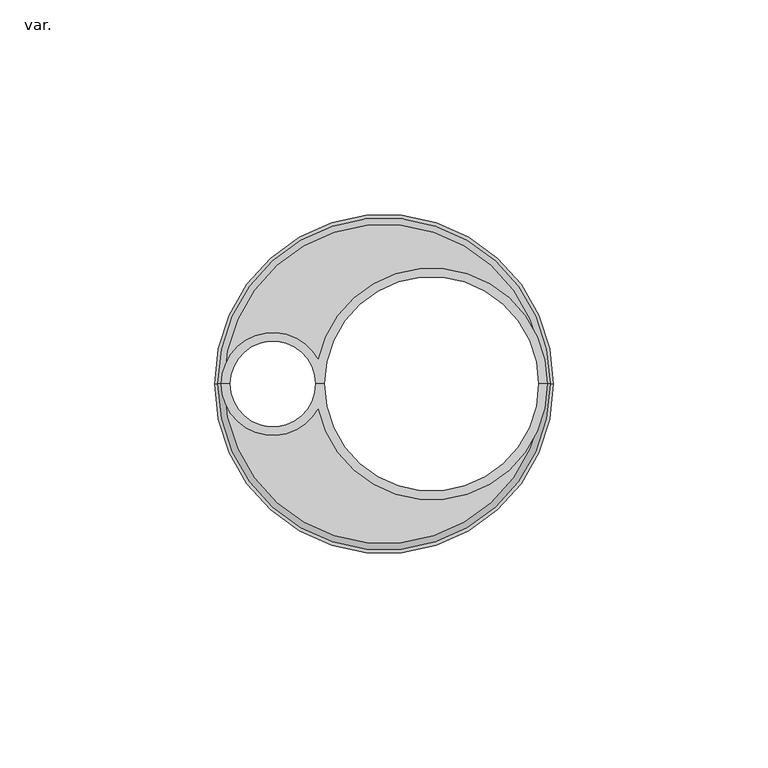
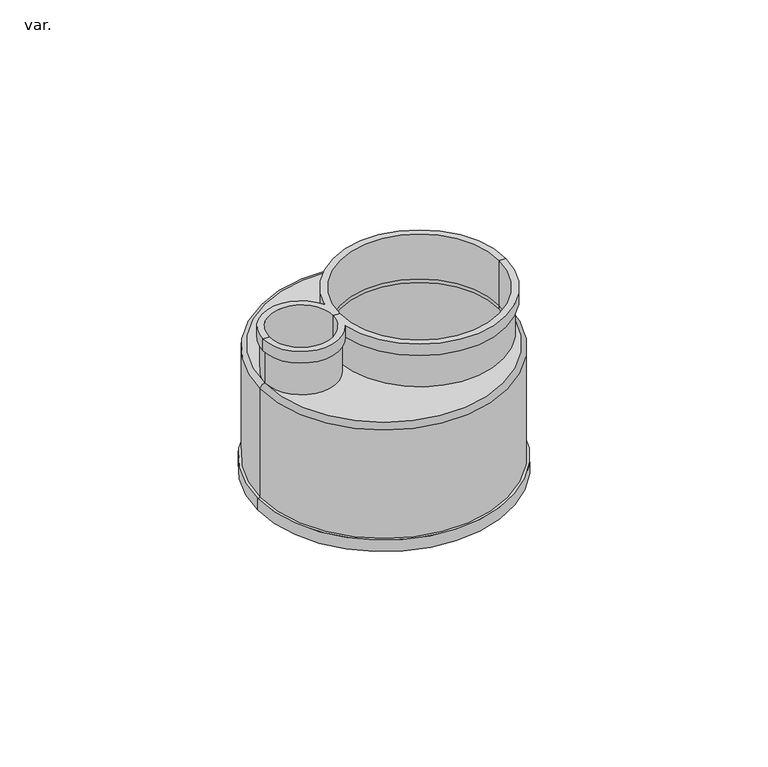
"""IFC4 building model written with IfcOpenShell, lengths in millimetres: pipe fitting geometry, AmancoWavin_ConexõesdeTubos_PEXCoifaDupla : var.."""

from ifc_helpers import new_model, si_unit, point, frame, origin, place, context, project, spatial, polyline, circle_curve, ellipse_curve, trimmed, source, transform, mapped, element, save
from ifc_brep_helpers import plane_surface, cylinder_surface, revolved_surface, advanced_brep


def var_be21ab8c(model_context):
    return source(origin(), model_context, "Body", "AdvancedBrep", [
        advanced_brep(
        [(-84.5559639, 0.0, 1.2), (-104.5559639, 0.0, 1.2), (-104.5559639, 0.0, 16.0), (-84.5559639, 0.0, 16.0), (-84.5559639, 0.0, 12.2), (-83.4959639, -1.7653328, 12.2), (-105.7559639, 0.0, 12.2), (-105.7559639, 0.0, 1.2), (-83.4959639, -1.7653328, 1.2), (-83.4959639, 1.7653328, 12.2), (-83.4959639, 1.7653328, 1.2), (-106.5559639, 0.0, 12.2), (-31.5559639, 0.0, 12.2), (-30.5559639, 0.0, 12.2), (-83.9613693, -5.6351189, 12.2), (-83.9613693, 5.6351189, 12.2), (-106.5559639, 0.0, 16.0), (-83.9613693, -5.6351189, 16.0), (-83.9613693, 5.6351189, 16.0), (-30.5559639, 0.0, 16.0), (-32.5559639, 0.0, 16.0), (-82.5559639, 0.0, 16.0), (-32.5559639, 0.0, 1.2), (-82.5559639, 0.0, 1.2), (-82.5559639, 0.0, 12.2), (-31.5559639, 0.0, 1.2), (-83.5559639, 0.0, 1.2), (-83.3559639, 0.0, 1.2)],
        [
            (0, 1, circle_curve(frame((-94.5559639, 0.0, 1.2), z_axis=(0.0, 0.0, -1.0), x_axis=(-1.0, 0.0, 0.0)), 10.0)),
            (1, 2),
            (2, 3, circle_curve(frame((-94.5559639, 0.0, 16.0), z_axis=(0.0, 0.0, 1.0), x_axis=(-1.0, 0.0, 0.0)), 10.0)),
            (3, 4),
            (4, 0),
            (1, 0, circle_curve(frame((-94.5559639, 0.0, 1.2), z_axis=(0.0, 0.0, -1.0), x_axis=(-1.0, 0.0, 0.0)), 10.0)),
            (3, 2, circle_curve(frame((-94.5559639, 0.0, 16.0), z_axis=(0.0, 0.0, 1.0), x_axis=(-1.0, 0.0, 0.0)), 10.0)),
            (5, 6, circle_curve(frame((-94.5559639, 0.0, 12.2), z_axis=(0.0, 0.0, -1.0), x_axis=(-1.0, 0.0, 0.0)), 11.2)),
            (6, 7),
            (7, 8, circle_curve(frame((-94.5559639, 0.0, 1.2), z_axis=(0.0, 0.0, 1.0), x_axis=(-1.0, 0.0, 0.0)), 11.2)),
            (8, 5),
            (6, 9, circle_curve(frame((-94.5559639, 0.0, 12.2), z_axis=(0.0, 0.0, -1.0), x_axis=(-1.0, 0.0, 0.0)), 11.2)),
            (9, 10),
            (10, 7, circle_curve(frame((-94.5559639, 0.0, 1.2), z_axis=(0.0, 0.0, 1.0), x_axis=(-1.0, 0.0, 0.0)), 11.2)),
            (11, 6),
            (5, 12, circle_curve(frame((-57.5559639, 0.0, 12.2), z_axis=(0.0, 0.0, 1.0), x_axis=(-1.0, 0.0, 0.0)), 26.0)),
            (12, 13),
            (13, 14, circle_curve(frame((-57.5559639, 0.0, 12.2), z_axis=(0.0, 0.0, -1.0), x_axis=(-1.0, 0.0, 0.0)), 27.0)),
            (14, 11, circle_curve(frame((-94.5559639, 0.0, 12.2), z_axis=(0.0, 0.0, -1.0), x_axis=(-1.0, 0.0, 0.0)), 12.0)),
            (11, 15, circle_curve(frame((-94.5559639, 0.0, 12.2), z_axis=(0.0, 0.0, -1.0), x_axis=(-1.0, 0.0, 0.0)), 12.0)),
            (15, 13, circle_curve(frame((-57.5559639, 0.0, 12.2), z_axis=(0.0, 0.0, -1.0), x_axis=(-1.0, 0.0, 0.0)), 27.0)),
            (12, 9, circle_curve(frame((-57.5559639, 0.0, 12.2), z_axis=(0.0, 0.0, 1.0), x_axis=(-1.0, 0.0, 0.0)), 26.0)),
            (16, 11),
            (14, 17),
            (17, 16, circle_curve(frame((-94.5559639, 0.0, 16.0), z_axis=(0.0, 0.0, -1.0), x_axis=(-1.0, 0.0, 0.0)), 12.0)),
            (16, 18, circle_curve(frame((-94.5559639, 0.0, 16.0), z_axis=(0.0, 0.0, -1.0), x_axis=(-1.0, 0.0, 0.0)), 12.0)),
            (18, 15),
            (2, 16),
            (17, 19, circle_curve(frame((-57.5559639, 0.0, 16.0), z_axis=(0.0, 0.0, 1.0), x_axis=(-1.0, 0.0, 0.0)), 27.0)),
            (19, 20),
            (20, 21, circle_curve(frame((-57.5559639, 0.0, 16.0), z_axis=(0.0, 0.0, -1.0), x_axis=(-1.0, 0.0, 0.0)), 25.0)),
            (21, 3),
            (21, 20, circle_curve(frame((-57.5559639, 0.0, 16.0), z_axis=(0.0, 0.0, -1.0), x_axis=(-1.0, 0.0, 0.0)), 25.0)),
            (19, 18, circle_curve(frame((-57.5559639, 0.0, 16.0), z_axis=(0.0, 0.0, 1.0), x_axis=(-1.0, 0.0, 0.0)), 27.0)),
            (22, 23, circle_curve(frame((-57.5559639, 0.0, 1.2), z_axis=(0.0, 0.0, -1.0), x_axis=(-1.0, 0.0, 0.0)), 25.0)),
            (23, 24),
            (24, 21),
            (20, 22),
            (23, 22, circle_curve(frame((-57.5559639, 0.0, 1.2), z_axis=(0.0, 0.0, -1.0), x_axis=(-1.0, 0.0, 0.0)), 25.0)),
            (25, 12),
            (8, 25, circle_curve(frame((-57.5559639, 0.0, 1.2), z_axis=(0.0, 0.0, 1.0), x_axis=(-1.0, 0.0, 0.0)), 26.0)),
            (25, 10, circle_curve(frame((-57.5559639, 0.0, 1.2), z_axis=(0.0, 0.0, 1.0), x_axis=(-1.0, 0.0, 0.0)), 26.0)),
            (13, 19),
            (0, 26),
            (26, 27),
            (27, 23),
            (22, 25),
            (7, 1),
        ],
        [
            revolved_surface(polyline([(-104.5559639, 0.0, 16.0), (-104.5559639, 0.0, 1.2000000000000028)]), (-94.5559639, 0.0, 82.9223836), (0.0, 0.0, 1.0)),
            cylinder_surface(frame((-94.5559639, 0.0, 82.9223836), z_axis=(0.0, 0.0, 1.0), x_axis=(-1.0, 0.0, 0.0)), 11.2),
            plane_surface(frame((-94.5559639, 0.0, 12.2), z_axis=(0.0, 0.0, -1.0), x_axis=(-1.0, 0.0, 0.0))),
            cylinder_surface(frame((-94.5559639, 0.0, 82.9223836), z_axis=(0.0, 0.0, 1.0), x_axis=(-1.0, 0.0, 0.0)), 12.0),
            plane_surface(frame((-94.5559639, 0.0, 16.0), z_axis=(0.0, 0.0, 1.0), x_axis=(-1.0, 0.0, 0.0))),
            revolved_surface(polyline([(-82.5559639, 0.0, 16.0), (-82.5559639, 0.0, 1.2000000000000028)]), (-57.5559639, 0.0, 79.0874691), (0.0, 0.0, 1.0)),
            cylinder_surface(frame((-57.5559639, 0.0, 79.0874691), z_axis=(0.0, 0.0, 1.0), x_axis=(-1.0, 0.0, 0.0)), 26.0),
            cylinder_surface(frame((-57.5559639, 0.0, 79.0874691), z_axis=(0.0, 0.0, 1.0), x_axis=(-1.0, 0.0, 0.0)), 27.0),
            plane_surface(frame((-94.5559639, 0.0, 1.2), z_axis=(0.0, 0.0, -1.0), x_axis=(-1.0, 0.0, 0.0))),
        ],
        [
            (0, [[1, 2, 3, 4, 5]]),
            (0, [[-2, 6, -5, -4, 7]]),
            (1, [[8, 9, 10, 11]]),
            (1, [[-9, 12, 13, 14]]),
            (2, [[15, -8, 16, 17, 18, 19]]),
            (2, [[-15, 20, 21, -17, 22, -12]]),
            (3, [[23, -19, 24, 25]]),
            (3, [[-23, 26, 27, -20]]),
            (4, [[-3, 28, -25, 29, 30, 31, 32]]),
            (4, [[-7, -32, 33, -30, 34, -26, -28]]),
            (5, [[35, 36, 37, -31, 38]]),
            (5, [[-38, -33, -37, -36, 39]]),
            (6, [[40, -16, -11, 41]]),
            (6, [[-22, -40, 42, -13]]),
            (7, [[43, -29, -24, -18]]),
            (7, [[-43, -21, -27, -34]]),
            (8, [[-1, 44, 45, 46, -35, 47, -41, -10, 48]]),
            (8, [[-6, -48, -14, -42, -47, -39, -46, -45, -44]]),
        ],
    ),
        advanced_brep(
        [(-105.8559639, 0.0, 1.2), (-31.4559639, 0.0, 1.2), (-32.5559639, 0.0, 1.2), (-82.5559639, 0.0, 1.2), (-84.5559639, 0.0, 1.2), (-104.5559639, 0.0, 1.2), (-31.1559639, 0.0, 0.0), (-106.1559639, 0.0, 0.0), (-104.5559639, 0.0, 0.0), (-84.5559639, 0.0, 0.0), (-82.5559639, 0.0, 0.0), (-32.5559639, 0.0, 0.0), (-31.1559639, 0.0, -40.0), (-106.1559639, 0.0, -40.0), (-29.1559639, 0.0, -40.0), (-108.1559639, 0.0, -40.0), (-29.1559639, 0.0, -36.2), (-108.1559639, 0.0, -36.2), (-29.9559639, 0.0, -36.2), (-107.3559639, 0.0, -36.2), (-29.9559639, 0.0, -0.3), (-107.3559639, 0.0, -0.3)],
        [
            (0, 1, circle_curve(frame((-68.6559639, 0.0, 1.2), z_axis=(0.0, 0.0, 1.0), x_axis=(-1.0, 0.0, 0.0)), 37.2)),
            (1, 2),
            (2, 3, circle_curve(frame((-57.5559639, 0.0, 1.2), z_axis=(0.0, 0.0, -1.0), x_axis=(-1.0, 0.0, 0.0)), 25.0)),
            (3, 4),
            (4, 5, circle_curve(frame((-94.5559639, 0.0, 1.2), z_axis=(0.0, 0.0, -1.0), x_axis=(-1.0, 0.0, 0.0)), 10.0)),
            (5, 0),
            (1, 0, circle_curve(frame((-68.6559639, 0.0, 1.2), z_axis=(0.0, 0.0, 1.0), x_axis=(-1.0, 0.0, 0.0)), 37.2)),
            (5, 4, circle_curve(frame((-94.5559639, 0.0, 1.2), z_axis=(0.0, 0.0, -1.0), x_axis=(-1.0, 0.0, 0.0)), 10.0)),
            (3, 2, circle_curve(frame((-57.5559639, 0.0, 1.2), z_axis=(0.0, 0.0, -1.0), x_axis=(-1.0, 0.0, 0.0)), 25.0)),
            (6, 7, circle_curve(frame((-68.6559639, 0.0, 0.0), z_axis=(0.0, 0.0, -1.0), x_axis=(-1.0, 0.0, 0.0)), 37.5)),
            (7, 8),
            (8, 9, circle_curve(frame((-94.5559639, 0.0, 0.0), z_axis=(0.0, 0.0, 1.0), x_axis=(-1.0, 0.0, 0.0)), 10.0)),
            (9, 10),
            (10, 11, circle_curve(frame((-57.5559639, 0.0, 0.0), z_axis=(0.0, 0.0, 1.0), x_axis=(-1.0, 0.0, 0.0)), 25.0)),
            (11, 6),
            (7, 6, circle_curve(frame((-68.6559639, 0.0, 0.0), z_axis=(0.0, 0.0, -1.0), x_axis=(-1.0, 0.0, 0.0)), 37.5)),
            (11, 10, circle_curve(frame((-57.5559639, 0.0, 0.0), z_axis=(0.0, 0.0, 1.0), x_axis=(-1.0, 0.0, 0.0)), 25.0)),
            (9, 8, circle_curve(frame((-94.5559639, 0.0, 0.0), z_axis=(0.0, 0.0, 1.0), x_axis=(-1.0, 0.0, 0.0)), 10.0)),
            (6, 12),
            (12, 13, circle_curve(frame((-68.6559639, 0.0, -40.0), z_axis=(0.0, 0.0, -1.0), x_axis=(-1.0, 0.0, 0.0)), 37.5)),
            (13, 7),
            (13, 12, circle_curve(frame((-68.6559639, 0.0, -40.0), z_axis=(0.0, 0.0, -1.0), x_axis=(-1.0, 0.0, 0.0)), 37.5)),
            (12, 14),
            (14, 15, circle_curve(frame((-68.6559639, 0.0, -40.0), z_axis=(0.0, 0.0, -1.0), x_axis=(-1.0, 0.0, 0.0)), 39.5)),
            (15, 13),
            (15, 14, circle_curve(frame((-68.6559639, 0.0, -40.0), z_axis=(0.0, 0.0, -1.0), x_axis=(-1.0, 0.0, 0.0)), 39.5)),
            (14, 16),
            (16, 17, circle_curve(frame((-68.6559639, 0.0, -36.2), z_axis=(0.0, 0.0, -1.0), x_axis=(-1.0, 0.0, 0.0)), 39.5)),
            (17, 15),
            (17, 16, circle_curve(frame((-68.6559639, 0.0, -36.2), z_axis=(0.0, 0.0, -1.0), x_axis=(-1.0, 0.0, 0.0)), 39.5)),
            (16, 18),
            (18, 19, circle_curve(frame((-68.6559639, 0.0, -36.2), z_axis=(0.0, 0.0, -1.0), x_axis=(-1.0, 0.0, 0.0)), 38.7)),
            (19, 17),
            (19, 18, circle_curve(frame((-68.6559639, 0.0, -36.2), z_axis=(0.0, 0.0, -1.0), x_axis=(-1.0, 0.0, 0.0)), 38.7)),
            (18, 20),
            (20, 21, circle_curve(frame((-68.6559639, 0.0, -0.3), z_axis=(0.0, 0.0, -1.0), x_axis=(-1.0, 0.0, 0.0)), 38.7)),
            (21, 19),
            (21, 20, circle_curve(frame((-68.6559639, 0.0, -0.3), z_axis=(0.0, 0.0, -1.0), x_axis=(-1.0, 0.0, 0.0)), 38.7)),
            (0, 21, circle_curve(frame((-105.8559639, 0.0, -0.3), z_axis=(0.0, -1.0, 0.0), x_axis=(-1.0, 0.0, 0.0)), 1.5)),
            (20, 1, circle_curve(frame((-31.4559639, 0.0, -0.3), z_axis=(0.0, -1.0, 0.0), x_axis=(1.0, 0.0, 0.0)), 1.5)),
            (8, 5),
            (4, 9),
            (2, 11),
            (10, 3),
        ],
        [
            plane_surface(frame((-68.6559639, 0.0, 1.2), z_axis=(0.0, 0.0, 1.0), x_axis=(-1.0, 0.0, 0.0))),
            plane_surface(frame((-68.6559639, 0.0, 0.0), z_axis=(0.0, 0.0, -1.0), x_axis=(-1.0, 0.0, 0.0))),
            revolved_surface(polyline([(-106.1559639, 0.0, 0.0), (-106.1559639, 0.0, -40.0)]), (-68.6559639, 0.0, -2214.3150031), (0.0, 0.0, 1.0)),
            plane_surface(frame((-68.6559639, 0.0, -40.0), z_axis=(0.0, 0.0, -1.0), x_axis=(-1.0, 0.0, 0.0))),
            cylinder_surface(frame((-68.6559639, 0.0, -2214.3150031), z_axis=(0.0, 0.0, 1.0), x_axis=(-1.0, 0.0, 0.0)), 39.5),
            plane_surface(frame((-68.6559639, 0.0, -36.2), z_axis=(0.0, 0.0, 1.0), x_axis=(-1.0, 0.0, 0.0))),
            cylinder_surface(frame((-68.6559639, 0.0, -2214.3150031), z_axis=(0.0, 0.0, 1.0), x_axis=(-1.0, 0.0, 0.0)), 38.7),
            revolved_surface(trimmed(ellipse_curve(frame((-105.8559639, 0.0, -0.3), z_axis=(0.0, 1.0, 0.0), x_axis=(-1.0, 0.0, 0.0)), 1.5, 1.5), [point((-107.3559639, 0.0, -0.3))], [point((-105.8559639, 0.0, 1.2))], True, "CARTESIAN"), (-68.6559639, 0.0, -2214.3150031), (0.0, 0.0, 1.0)),
            revolved_surface(polyline([(-104.5559639, 0.0, 1.2000000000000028), (-104.5559639, 0.0, 0.0)]), (-94.5559639, 0.0, 82.9223836), (0.0, 0.0, 1.0)),
            revolved_surface(polyline([(-82.5559639, 0.0, 1.2000000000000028), (-82.5559639, 0.0, 0.0)]), (-57.5559639, 0.0, 79.0874691), (0.0, 0.0, 1.0)),
        ],
        [
            (0, [[1, 2, 3, 4, 5, 6]]),
            (0, [[7, -6, 8, -4, 9, -2]]),
            (1, [[10, 11, 12, 13, 14, 15]]),
            (1, [[16, -15, 17, -13, 18, -11]]),
            (2, [[-10, 19, 20, 21]]),
            (2, [[-16, -21, 22, -19]]),
            (3, [[-20, 23, 24, 25]]),
            (3, [[-22, -25, 26, -23]]),
            (4, [[-24, 27, 28, 29]]),
            (4, [[-26, -29, 30, -27]]),
            (5, [[-28, 31, 32, 33]]),
            (5, [[-30, -33, 34, -31]]),
            (6, [[-32, 35, 36, 37]]),
            (6, [[-34, -37, 38, -35]]),
            (7, [[-1, 39, -36, 40]]),
            (7, [[-7, -40, -38, -39]]),
            (8, [[41, -5, 42, -12]]),
            (8, [[-41, -18, -42, -8]]),
            (9, [[43, -14, 44, -3]]),
            (9, [[-43, -9, -44, -17]]),
        ],
    ),
    ])


if __name__ == "__main__":
    model = new_model("IFC4")
    model_context = context("Model", 3, world=origin())
    ifc_project = project(units=[si_unit("LENGTHUNIT", "METRE", prefix="MILLI")], contexts=[model_context])
    site = spatial("IfcSite", under=ifc_project)
    building = spatial("IfcBuilding", under=site)
    placement = place(None, origin())
    var_shape = var_be21ab8c(model_context)
    element("IfcPipeFitting", 1, ObjectType="AmancoWavin_ConexõesdeTubos_PEXCoifaDupla : var.", at=placement, inside=building, context=model_context, shape_type="MappedRepresentation", body=[
        mapped(var_shape, transform((0.0, 0.0, 0.0), x_axis=(1.0, 0.0, 0.0), y_axis=(0.0, 1.0, 0.0), z_axis=(0.0, 0.0, 1.0))),
    ])
    save(model, "model.ifc")
